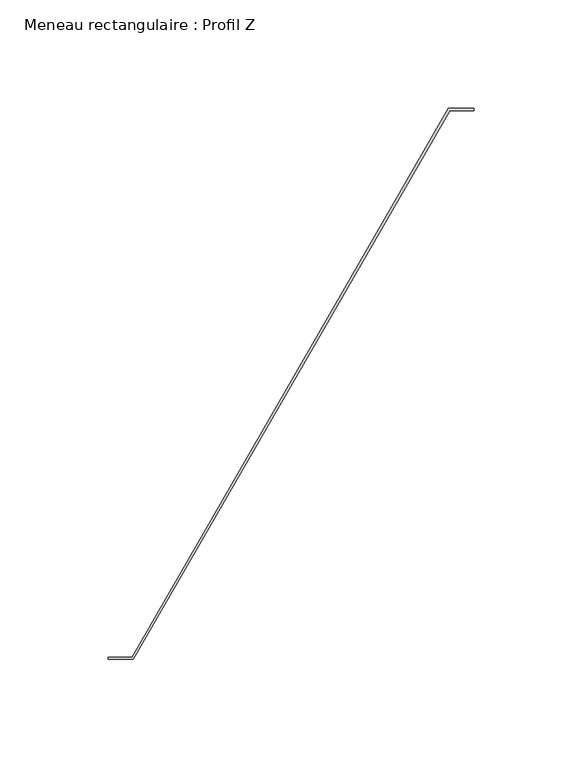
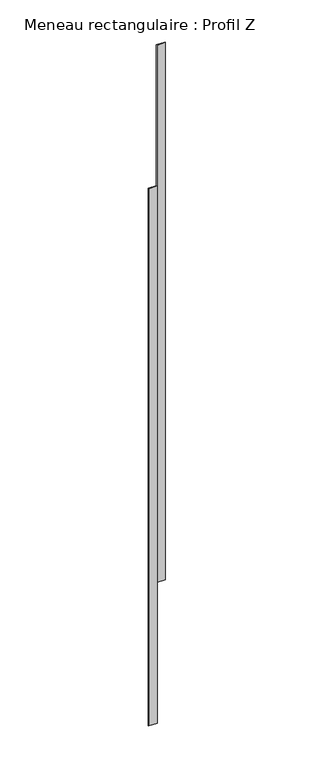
"""IFC4 building model written with IfcOpenShell, lengths in millimetres: member geometry, Meneau rectangulaire : Profil Z."""

from ifc_helpers import new_model, si_unit, frame, origin, place, context, project, spatial, polyline, outline, extrude, source, transform, mapped, element, save


def meneau_rectangulaire_profil_z_979b1746(model_context):
    return source(origin(), model_context, "Body", "SweptSolid", [
        extrude(outline(polyline([(72.7461339, 87.0), (84.2931393, 87.0), (84.2931393, 86.0), (73.3234842, 86.0), (-72.7461339, -167.0), (-84.2931393, -167.0), (-84.2931393, -166.0), (-73.3234842, -166.0), (72.7461339, 87.0)])), frame((0.0, 0.0, -780.3), z_axis=(0.0, 0.0, 1.0), x_axis=(1.0, 0.0, 0.0)), (0.0, 0.0, 1.0), 780.3),
    ])


if __name__ == "__main__":
    model = new_model("IFC4")
    model_context = context("Model", 3, world=origin())
    ifc_project = project(units=[si_unit("LENGTHUNIT", "METRE", prefix="MILLI")], contexts=[model_context])
    site = spatial("IfcSite", under=ifc_project)
    building = spatial("IfcBuilding", under=site)
    placement = place(None, origin())
    meneau_rectangulaire_profil_z_shape = meneau_rectangulaire_profil_z_979b1746(model_context)
    element("IfcMember", 1, ObjectType="Meneau rectangulaire : Profil Z", at=placement, inside=building, context=model_context, shape_type="MappedRepresentation", body=[
        mapped(meneau_rectangulaire_profil_z_shape, transform((0.0, 0.0, 0.0), x_axis=(1.0, 0.0, 0.0), y_axis=(0.0, 1.0, 0.0), z_axis=(0.0, 0.0, 1.0))),
    ])
    save(model, "model.ifc")
